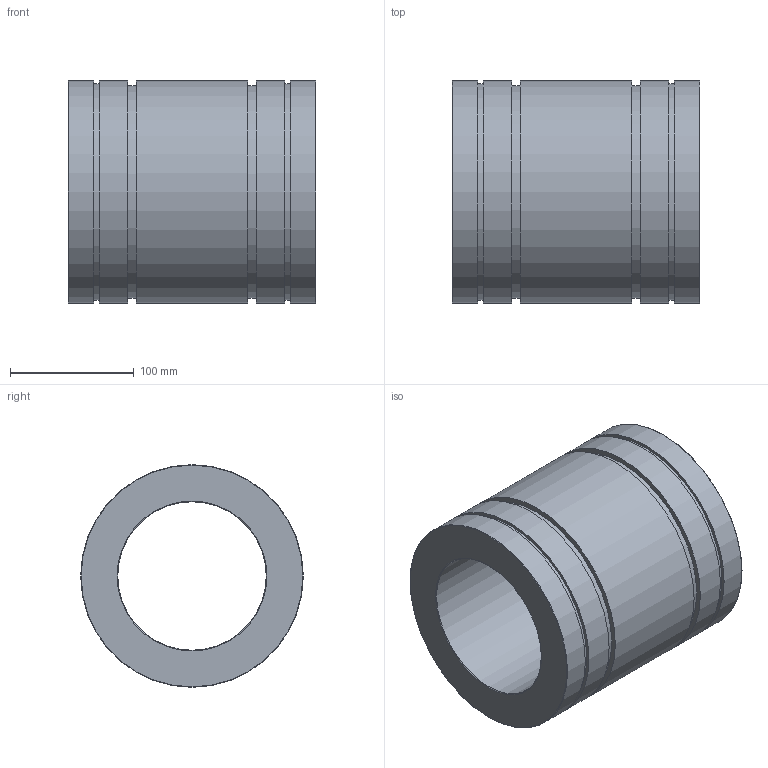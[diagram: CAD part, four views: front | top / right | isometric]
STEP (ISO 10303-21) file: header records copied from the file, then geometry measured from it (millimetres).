
FILE_DESCRIPTION(('STEP AP203'),'1');
FILE_NAME('//192.168.1.1/share/s-4 技術開発/s-4-4_CAD/s-4-4-3_見直し済み/PBC LINEAR修正済み/3D途中/FJ/FJ120.step','2022-03-24T06:50:37',(' '),(' '),'Spatial InterOp 3D',' ',' ');
FILE_SCHEMA(('CONFIG_CONTROL_DESIGN'));
Length unit declared in the file: millimetre
Products named in the file (1): 1
Bounding box: 200 x 180 x 180 mm (x, y, z)
Volume: 2783205.4 mm3; surface area: 230607.6 mm2
Topology: 1 solids, 1 shells, 24 faces, 38 edges, 24 vertices
Faces by surface type: cylinder 10, plane 10, torus 4
Full cylindrical faces by diameter (mm): 120 x1, 171.74 x2, 175 x2, 180 x5
Entity records: 532 total; most frequent: DIRECTION 98, CARTESIAN_POINT 73, AXIS2_PLACEMENT_3D 49, EDGE_LOOP 48, ORIENTED_EDGE 48, FACE_OUTER_BOUND 38, ADVANCED_FACE 24, EDGE_CURVE 24
